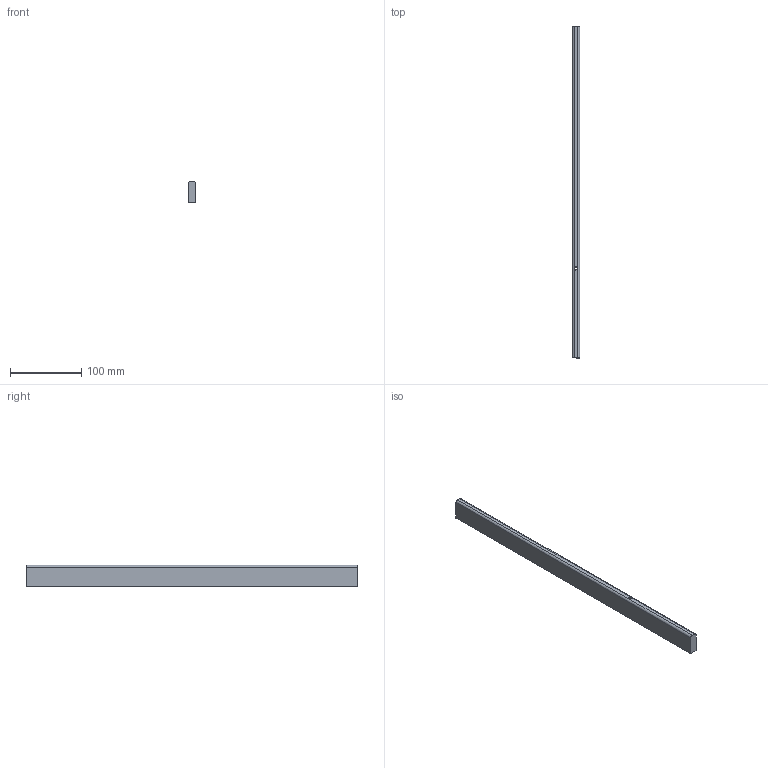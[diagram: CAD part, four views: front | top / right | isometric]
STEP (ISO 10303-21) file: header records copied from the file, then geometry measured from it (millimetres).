
FILE_DESCRIPTION (( 'STEP AP214' ), '1' );
FILE_NAME ('_Seitenreling_SP60702400_RL467,1.step', '2010-09-06T14:52:04', ( 'grass' ), ( '' ), 'SwSTEP 2.0', 'SolidWorks 2010', '' );
FILE_SCHEMA (( 'AUTOMOTIVE_DESIGN' ));
Length unit declared in the file: millimetre
Products named in the file (1): _Seitenreling_SP60702400_RL467,1
Bounding box: 10.5 x 467.1 x 30 mm (x, y, z)
Volume: 144413.1 mm3; surface area: 37792.9 mm2
Topology: 1 solids, 1 shells, 14 faces, 34 edges, 22 vertices
Faces by surface type: plane 8, cylinder 6
Entity records: 454 total; most frequent: DIRECTION 78, CARTESIAN_POINT 71, ORIENTED_EDGE 68, EDGE_CURVE 34, AXIS2_PLACEMENT_3D 29, VERTEX_POINT 22, VECTOR 20, LINE 20
